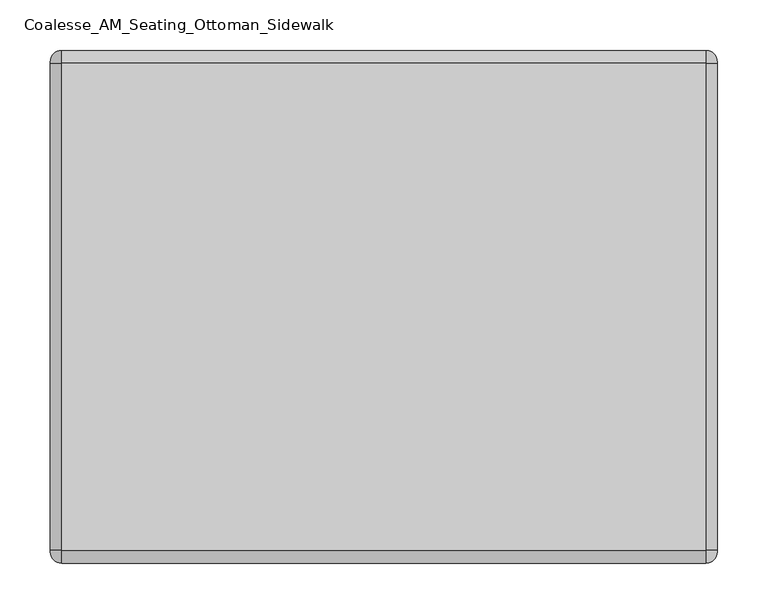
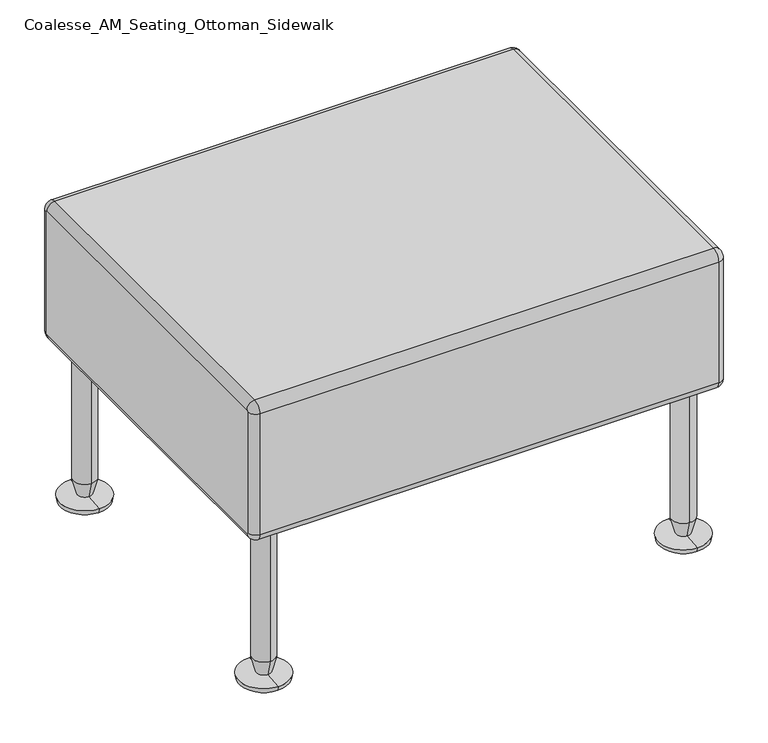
"""IFC4 building model written with IfcOpenShell, lengths in millimetres: furniture geometry, Coalesse_AM_Seating_Ottoman_Sidewalk : 20D x 26W."""

from ifc_helpers import new_model, si_unit, point, frame, origin, place, context, project, spatial, polyline, circle_curve, ellipse_curve, trimmed, source, transform, mapped, element, save
from ifc_brep_helpers import plane_surface, cylinder_surface, revolved_surface, advanced_brep


def coalesse_am_seating_ottoman_sidewalk_9dda5adf(model_context):
    return source(origin(), model_context, "Body", "AdvancedBrep", [
        advanced_brep(
        [(465.8089794, -146.3050929, 420.6875), (465.8089794, -144.7175929, 419.1), (465.8089794, -144.7175929, 241.3), (465.8089794, -146.3050929, 239.7125), (465.8089794, -628.9050929, 239.7125), (465.8089794, -630.4925929, 241.3), (465.8089794, -630.4925929, 419.1), (465.8089794, -628.9050929, 420.6875), (1126.2089794, -628.9050929, 420.6875), (1126.2089794, -630.4925929, 419.1), (1126.2089794, -630.4925929, 241.3), (1126.2089794, -628.9050929, 239.7125), (1126.2089794, -146.3050929, 239.7125), (1126.2089794, -144.7175929, 241.3), (1126.2089794, -144.7175929, 419.1), (1126.2089794, -146.3050929, 420.6875), (476.9214794, -146.3050929, 431.8), (476.9214794, -628.9050929, 431.8), (1115.0964794, -628.9050929, 431.8), (1115.0964794, -146.3050929, 431.8), (476.9214794, -133.6050929, 419.1), (1115.0964794, -133.6050929, 419.1), (476.9214794, -133.6050929, 241.3), (1115.0964794, -133.6050929, 241.3), (476.9214794, -146.3050929, 228.6), (1115.0964794, -146.3050929, 228.6), (476.9214794, -628.9050929, 228.6), (1115.0964794, -628.9050929, 228.6), (476.9214794, -641.6050929, 241.3), (1115.0964794, -641.6050929, 241.3), (476.9214794, -641.6050929, 419.1), (1115.0964794, -641.6050929, 419.1)],
        [
            (0, 1, circle_curve(frame((465.8089794, -146.3050929, 419.1), z_axis=(-1.0, 0.0, 0.0), x_axis=(0.0, 0.0, 1.0)), 1.5875)),
            (1, 2),
            (2, 3, circle_curve(frame((465.8089794, -146.3050929, 241.3), z_axis=(-1.0, 0.0, 0.0), x_axis=(0.0, 1.0, 0.0)), 1.5875)),
            (3, 4),
            (4, 5, circle_curve(frame((465.8089794, -628.9050929, 241.3), z_axis=(-1.0, 0.0, 0.0), x_axis=(0.0, 0.0, -1.0)), 1.5875)),
            (5, 6),
            (6, 7, circle_curve(frame((465.8089794, -628.9050929, 419.1), z_axis=(-1.0, 0.0, 0.0), x_axis=(0.0, -1.0, 0.0)), 1.5875)),
            (7, 0),
            (8, 9, circle_curve(frame((1126.2089794, -628.9050929, 419.1), z_axis=(1.0, 0.0, 0.0), x_axis=(0.0, 0.0, 1.0)), 1.5875)),
            (9, 10),
            (10, 11, circle_curve(frame((1126.2089794, -628.9050929, 241.3), z_axis=(1.0, 0.0, 0.0), x_axis=(0.0, -1.0, 0.0)), 1.5875)),
            (11, 12),
            (12, 13, circle_curve(frame((1126.2089794, -146.3050929, 241.3), z_axis=(1.0, 0.0, 0.0), x_axis=(0.0, 0.0, -1.0)), 1.5875)),
            (13, 14),
            (14, 15, circle_curve(frame((1126.2089794, -146.3050929, 419.1), z_axis=(1.0, 0.0, 0.0), x_axis=(0.0, 1.0, 0.0)), 1.5875)),
            (15, 8),
            (16, 17),
            (17, 18),
            (18, 19),
            (19, 16),
            (20, 16, circle_curve(frame((476.9214794, -146.3050929, 419.1), z_axis=(1.0, 0.0, 0.0), x_axis=(0.0, -1.0, 0.0)), 12.7)),
            (19, 21, circle_curve(frame((1115.0964794, -146.3050929, 419.1), z_axis=(-1.0, 0.0, 0.0), x_axis=(0.0, -1.0, 0.0)), 12.7)),
            (21, 20),
            (22, 20),
            (21, 23),
            (23, 22),
            (24, 22, circle_curve(frame((476.9214794, -146.3050929, 241.3), z_axis=(1.0, 0.0, 0.0), x_axis=(0.0, -1.0, 0.0)), 12.7)),
            (23, 25, circle_curve(frame((1115.0964794, -146.3050929, 241.3), z_axis=(-1.0, 0.0, 0.0), x_axis=(0.0, -1.0, 0.0)), 12.7)),
            (25, 24),
            (26, 24),
            (25, 27),
            (27, 26),
            (28, 26, circle_curve(frame((476.9214794, -628.9050929, 241.3), z_axis=(1.0, 0.0, 0.0), x_axis=(0.0, -1.0, 0.0)), 12.7)),
            (27, 29, circle_curve(frame((1115.0964794, -628.9050929, 241.3), z_axis=(-1.0, 0.0, 0.0), x_axis=(0.0, -1.0, 0.0)), 12.7)),
            (29, 28),
            (30, 28),
            (29, 31),
            (31, 30),
            (17, 30, circle_curve(frame((476.9214794, -628.9050929, 419.1), z_axis=(1.0, 0.0, 0.0), x_axis=(0.0, -1.0, 0.0)), 12.7)),
            (31, 18, circle_curve(frame((1115.0964794, -628.9050929, 419.1), z_axis=(-1.0, 0.0, 0.0), x_axis=(0.0, -1.0, 0.0)), 12.7)),
            (20, 1, circle_curve(frame((476.9214794, -144.7175929, 419.1), z_axis=(0.0, 0.0, 1.0), x_axis=(0.0, -1.0, 0.0)), 11.1125)),
            (0, 16, circle_curve(frame((476.9214794, -146.3050929, 420.6875), z_axis=(0.0, 1.0, 0.0), x_axis=(0.0, 0.0, -1.0)), 11.1125)),
            (22, 2, circle_curve(frame((476.9214794, -144.7175929, 241.3), z_axis=(0.0, 0.0, 1.0), x_axis=(0.0, -1.0, 0.0)), 11.1125)),
            (24, 3, circle_curve(frame((476.9214794, -146.3050929, 239.7125), z_axis=(0.0, 1.0, 0.0), x_axis=(0.0, 0.0, 1.0)), 11.1125)),
            (26, 4, circle_curve(frame((476.9214794, -628.9050929, 239.7125), z_axis=(0.0, 1.0, 0.0), x_axis=(0.0, 0.0, 1.0)), 11.1125)),
            (28, 5, circle_curve(frame((476.9214794, -630.4925929, 241.3), z_axis=(0.0, 0.0, -1.0), x_axis=(0.0, 1.0, 0.0)), 11.1125)),
            (30, 6, circle_curve(frame((476.9214794, -630.4925929, 419.1), z_axis=(0.0, 0.0, -1.0), x_axis=(0.0, 1.0, 0.0)), 11.1125)),
            (17, 7, circle_curve(frame((476.9214794, -628.9050929, 420.6875), z_axis=(0.0, -1.0, 0.0), x_axis=(0.0, 0.0, -1.0)), 11.1125)),
            (31, 9, circle_curve(frame((1115.0964794, -630.4925929, 419.1), z_axis=(0.0, 0.0, 1.0), x_axis=(0.0, -1.0, 0.0)), 11.1125)),
            (8, 18, circle_curve(frame((1115.0964794, -628.9050929, 420.6875), z_axis=(0.0, -1.0, 0.0), x_axis=(0.0, 0.0, 1.0)), 11.1125)),
            (29, 10, circle_curve(frame((1115.0964794, -630.4925929, 241.3), z_axis=(0.0, 0.0, 1.0), x_axis=(0.0, -1.0, 0.0)), 11.1125)),
            (27, 11, circle_curve(frame((1115.0964794, -628.9050929, 239.7125), z_axis=(0.0, -1.0, 0.0), x_axis=(0.0, 0.0, -1.0)), 11.1125)),
            (25, 12, circle_curve(frame((1115.0964794, -146.3050929, 239.7125), z_axis=(0.0, -1.0, 0.0), x_axis=(0.0, 0.0, -1.0)), 11.1125)),
            (23, 13, circle_curve(frame((1115.0964794, -144.7175929, 241.3), z_axis=(0.0, 0.0, -1.0), x_axis=(0.0, 1.0, 0.0)), 11.1125)),
            (21, 14, circle_curve(frame((1115.0964794, -144.7175929, 419.1), z_axis=(0.0, 0.0, -1.0), x_axis=(0.0, 1.0, 0.0)), 11.1125)),
            (19, 15, circle_curve(frame((1115.0964794, -146.3050929, 420.6875), z_axis=(0.0, 1.0, 0.0), x_axis=(0.0, 0.0, 1.0)), 11.1125)),
        ],
        [
            plane_surface(frame((465.8089794, -146.3050929, 431.8), z_axis=(-1.0, 0.0, 0.0), x_axis=(0.0, 1.0, 0.0))),
            plane_surface(frame((1126.2089794, -146.3050929, 431.8), z_axis=(1.0, 0.0, 0.0), x_axis=(0.0, -1.0, 0.0))),
            plane_surface(frame((465.8089794, -628.9050929, 431.8), z_axis=(0.0, 0.0, 1.0), x_axis=(1.0, 0.0, 0.0))),
            cylinder_surface(frame((1126.2089794, -146.3050929, 419.1), z_axis=(-1.0, 0.0, 0.0), x_axis=(0.0, -1.0, 0.0)), 12.7),
            plane_surface(frame((465.8089794, -133.6050929, 419.1), z_axis=(0.0, 1.0, 0.0), x_axis=(1.0, 0.0, 0.0))),
            cylinder_surface(frame((1126.2089794, -146.3050929, 241.3), z_axis=(-1.0, 0.0, 0.0), x_axis=(0.0, -1.0, 0.0)), 12.7),
            plane_surface(frame((465.8089794, -146.3050929, 228.6), z_axis=(0.0, 0.0, -1.0), x_axis=(1.0, 0.0, 0.0))),
            cylinder_surface(frame((1126.2089794, -628.9050929, 241.3), z_axis=(-1.0, 0.0, 0.0), x_axis=(0.0, -1.0, 0.0)), 12.7),
            plane_surface(frame((465.8089794, -641.6050929, 241.3), z_axis=(0.0, -1.0, 0.0), x_axis=(1.0, 0.0, 0.0))),
            cylinder_surface(frame((1126.2089794, -628.9050929, 419.1), z_axis=(-1.0, 0.0, 0.0), x_axis=(0.0, -1.0, 0.0)), 12.7),
            revolved_surface(trimmed(ellipse_curve(frame((476.9214794, -146.3050929, 420.6875), z_axis=(0.0, -1.0, 0.0), x_axis=(0.0, 0.0, -1.0)), 11.1125, 11.1125), [point((476.9214794, -146.3050929, 431.8))], [point((465.8089794, -146.3050929, 420.6875))], True, "CARTESIAN"), (465.8089794, -146.3050929, 419.1), (-1.0, 0.0, 0.0)),
            cylinder_surface(frame((476.9214794, -144.7175929, 419.1), z_axis=(0.0, 0.0, -1.0), x_axis=(0.0, -1.0, 0.0)), 11.1125),
            revolved_surface(trimmed(ellipse_curve(frame((476.9214794, -144.7175929, 241.3), z_axis=(0.0, 0.0, 1.0), x_axis=(0.0, -1.0, 0.0)), 11.1125, 11.1125), [point((476.9214794, -133.6050929, 241.3))], [point((465.8089794, -144.7175929, 241.3))], True, "CARTESIAN"), (465.8089794, -146.3050929, 241.3), (-1.0, 0.0, 0.0)),
            cylinder_surface(frame((476.9214794, -146.3050929, 239.7125), z_axis=(0.0, -1.0, 0.0), x_axis=(0.0, 0.0, 1.0)), 11.1125),
            revolved_surface(trimmed(ellipse_curve(frame((476.9214794, -628.9050929, 239.7125), z_axis=(0.0, 1.0, 0.0), x_axis=(0.0, 0.0, 1.0)), 11.1125, 11.1125), [point((476.9214794, -628.9050929, 228.6))], [point((465.8089794, -628.9050929, 239.7125))], True, "CARTESIAN"), (465.8089794, -628.9050929, 241.3), (-1.0, 0.0, 0.0)),
            cylinder_surface(frame((476.9214794, -630.4925929, 241.3), z_axis=(0.0, 0.0, 1.0), x_axis=(0.0, 1.0, 0.0)), 11.1125),
            revolved_surface(trimmed(ellipse_curve(frame((476.9214794, -630.4925929, 419.1), z_axis=(0.0, 0.0, -1.0), x_axis=(0.0, 1.0, 0.0)), 11.1125, 11.1125), [point((476.9214794, -641.6050929, 419.1))], [point((465.8089794, -630.4925929, 419.1))], True, "CARTESIAN"), (465.8089794, -628.9050929, 419.1), (-1.0, 0.0, 0.0)),
            cylinder_surface(frame((476.9214794, -628.9050929, 420.6875), z_axis=(0.0, 1.0, 0.0), x_axis=(0.0, 0.0, -1.0)), 11.1125),
            revolved_surface(trimmed(ellipse_curve(frame((1115.0964794, -628.9050929, 420.6875), z_axis=(0.0, 1.0, 0.0), x_axis=(0.0, 0.0, 1.0)), 11.1125, 11.1125), [point((1115.0964794, -628.9050929, 431.8))], [point((1126.2089794, -628.9050929, 420.6875))], True, "CARTESIAN"), (1126.2089794, -628.9050929, 419.1), (1.0, 0.0, 0.0)),
            cylinder_surface(frame((1115.0964794, -630.4925929, 419.1), z_axis=(0.0, 0.0, -1.0), x_axis=(0.0, -1.0, 0.0)), 11.1125),
            revolved_surface(trimmed(ellipse_curve(frame((1115.0964794, -630.4925929, 241.3), z_axis=(0.0, 0.0, 1.0), x_axis=(0.0, -1.0, 0.0)), 11.1125, 11.1125), [point((1115.0964794, -641.6050929, 241.3))], [point((1126.2089794, -630.4925929, 241.3))], True, "CARTESIAN"), (1126.2089794, -628.9050929, 241.3), (1.0, 0.0, 0.0)),
            cylinder_surface(frame((1115.0964794, -628.9050929, 239.7125), z_axis=(0.0, 1.0, 0.0), x_axis=(0.0, 0.0, -1.0)), 11.1125),
            revolved_surface(trimmed(ellipse_curve(frame((1115.0964794, -146.3050929, 239.7125), z_axis=(0.0, -1.0, 0.0), x_axis=(0.0, 0.0, -1.0)), 11.1125, 11.1125), [point((1115.0964794, -146.3050929, 228.6))], [point((1126.2089794, -146.3050929, 239.7125))], True, "CARTESIAN"), (1126.2089794, -146.3050929, 241.3), (1.0, 0.0, 0.0)),
            cylinder_surface(frame((1115.0964794, -144.7175929, 241.3), z_axis=(0.0, 0.0, 1.0), x_axis=(0.0, 1.0, 0.0)), 11.1125),
            revolved_surface(trimmed(ellipse_curve(frame((1115.0964794, -144.7175929, 419.1), z_axis=(0.0, 0.0, -1.0), x_axis=(0.0, 1.0, 0.0)), 11.1125, 11.1125), [point((1115.0964794, -133.6050929, 419.1))], [point((1126.2089794, -144.7175929, 419.1))], True, "CARTESIAN"), (1126.2089794, -146.3050929, 419.1), (1.0, 0.0, 0.0)),
            cylinder_surface(frame((1115.0964794, -146.3050929, 420.6875), z_axis=(0.0, -1.0, 0.0), x_axis=(0.0, 0.0, 1.0)), 11.1125),
        ],
        [
            (0, [[1, 2, 3, 4, 5, 6, 7, 8]]),
            (1, [[9, 10, 11, 12, 13, 14, 15, 16]]),
            (2, [[17, 18, 19, 20]]),
            (3, [[21, -20, 22, 23]]),
            (4, [[24, -23, 25, 26]]),
            (5, [[27, -26, 28, 29]]),
            (6, [[30, -29, 31, 32]]),
            (7, [[33, -32, 34, 35]]),
            (8, [[36, -35, 37, 38]]),
            (9, [[39, -38, 40, -18]]),
            (10, [[41, -1, 42, -21]]),
            (11, [[-41, -24, 43, -2]]),
            (12, [[-43, -27, 44, -3]]),
            (13, [[-44, -30, 45, -4]]),
            (14, [[-45, -33, 46, -5]]),
            (15, [[-46, -36, 47, -6]]),
            (16, [[-47, -39, 48, -7]]),
            (17, [[-42, -8, -48, -17]]),
            (18, [[49, -9, 50, -40]]),
            (19, [[-49, -37, 51, -10]]),
            (20, [[-51, -34, 52, -11]]),
            (21, [[-52, -31, 53, -12]]),
            (22, [[-53, -28, 54, -13]]),
            (23, [[-54, -25, 55, -14]]),
            (24, [[-55, -22, 56, -15]]),
            (25, [[-50, -16, -56, -19]]),
        ],
    ),
        advanced_brep(
        [(1088.1089794, -187.5800929, 31.75), (1088.1089794, -155.8300929, 31.75), (1088.1089794, -155.8300929, 228.6), (1088.1089794, -187.5800929, 228.6), (1088.1089794, -181.5884463, 8.5001207), (1088.1089794, -161.8217394, 8.5001207), (1088.1089794, -206.6300929, 6.35), (1088.1089794, -136.7800929, 6.35), (1088.1089794, -205.5717596, 0.0), (1088.1089794, -137.8384262, 0.0), (1088.1089794, -171.7050929, 0.0), (1088.1089794, -171.7050929, 228.6)],
        [
            (0, 1, circle_curve(frame((1088.1089794, -171.7050929, 31.75), z_axis=(0.0, 0.0, 1.0), x_axis=(0.0, 1.0, 0.0)), 15.875)),
            (1, 2),
            (2, 3, circle_curve(frame((1088.1089794, -171.7050929, 228.6), z_axis=(0.0, 0.0, -1.0), x_axis=(0.0, 1.0, 0.0)), 15.875)),
            (3, 0),
            (1, 0, circle_curve(frame((1088.1089794, -171.7050929, 31.75), z_axis=(0.0, 0.0, 1.0), x_axis=(0.0, 1.0, 0.0)), 15.875)),
            (3, 2, circle_curve(frame((1088.1089794, -171.7050929, 228.6), z_axis=(0.0, 0.0, -1.0), x_axis=(0.0, 1.0, 0.0)), 15.875)),
            (4, 5, circle_curve(frame((1088.1089794, -171.7050929, 8.5001207), z_axis=(0.0, 0.0, 1.0), x_axis=(0.0, 1.0, 0.0)), 9.8833534)),
            (5, 1),
            (0, 4),
            (5, 4, circle_curve(frame((1088.1089794, -171.7050929, 8.5001207), z_axis=(0.0, 0.0, 1.0), x_axis=(0.0, 1.0, 0.0)), 9.8833534)),
            (6, 7, circle_curve(frame((1088.1089794, -171.7050929, 6.35), z_axis=(0.0, 0.0, 1.0), x_axis=(0.0, 1.0, 0.0)), 34.925)),
            (7, 5),
            (4, 6),
            (7, 6, circle_curve(frame((1088.1089794, -171.7050929, 6.35), z_axis=(0.0, 0.0, 1.0), x_axis=(0.0, 1.0, 0.0)), 34.925)),
            (8, 9, circle_curve(frame((1088.1089794, -171.7050929, 0.0), z_axis=(0.0, 0.0, 1.0), x_axis=(0.0, 1.0, 0.0)), 33.8666667)),
            (9, 7),
            (6, 8),
            (9, 8, circle_curve(frame((1088.1089794, -171.7050929, 0.0), z_axis=(0.0, 0.0, 1.0), x_axis=(0.0, 1.0, 0.0)), 33.8666667)),
            (10, 9),
            (8, 10),
            (2, 11),
            (11, 3),
        ],
        [
            cylinder_surface(frame((1088.1089794, -171.7050929, -95.25), z_axis=(0.0, 0.0, -1.0), x_axis=(0.0, 1.0, 0.0)), 15.875),
            revolved_surface(polyline([(1088.1089794, -155.8300929, 31.75), (1088.1089794, -161.8217394, 8.5001207)]), (1088.1089794, -171.7050929, -95.25), (0.0, 0.0, -1.0)),
            revolved_surface(polyline([(1088.1089794, -161.8217394, 8.5001207), (1088.1089794, -136.7800929, 6.35)]), (1088.1089794, -171.7050929, -95.25), (0.0, 0.0, -1.0)),
            revolved_surface(polyline([(1088.1089794, -136.7800929, 6.35), (1088.1089794, -137.8384262, 0.0)]), (1088.1089794, -171.7050929, -95.25), (0.0, 0.0, -1.0)),
            plane_surface(frame((1088.1089794, -171.7050929, 0.0), z_axis=(0.0, 0.0, -1.0), x_axis=(0.0, 1.0, 0.0))),
            plane_surface(frame((1088.1089794, -171.7050929, 228.6), z_axis=(0.0, 0.0, 1.0), x_axis=(0.0, 1.0, 0.0))),
        ],
        [
            (0, [[1, 2, 3, 4]]),
            (0, [[5, -4, 6, -2]]),
            (1, [[7, 8, -1, 9]]),
            (1, [[10, -9, -5, -8]]),
            (2, [[11, 12, -7, 13]]),
            (2, [[14, -13, -10, -12]]),
            (3, [[15, 16, -11, 17]]),
            (3, [[18, -17, -14, -16]]),
            (4, [[19, -15, 20]]),
            (4, [[-20, -18, -19]]),
            (5, [[-3, 21, 22]]),
            (5, [[-6, -22, -21]]),
        ],
    ),
        advanced_brep(
        [(503.9089794, -171.7050929, 228.6), (503.9089794, -155.8300929, 228.6), (503.9089794, -187.5800929, 228.6), (503.9089794, -205.5717596, 0.0), (503.9089794, -137.8384262, 0.0), (503.9089794, -171.7050929, 0.0), (503.9089794, -206.6300929, 6.35), (503.9089794, -136.7800929, 6.35), (503.9089794, -181.5884463, 8.5001207), (503.9089794, -161.8217394, 8.5001207), (503.9089794, -187.5800929, 31.75), (503.9089794, -155.8300929, 31.75)],
        [
            (0, 1),
            (1, 2, circle_curve(frame((503.9089794, -171.7050929, 228.6), z_axis=(0.0, 0.0, 1.0), x_axis=(0.0, 1.0, 0.0)), 15.875)),
            (2, 0),
            (2, 1, circle_curve(frame((503.9089794, -171.7050929, 228.6), z_axis=(0.0, 0.0, 1.0), x_axis=(0.0, 1.0, 0.0)), 15.875)),
            (3, 4, circle_curve(frame((503.9089794, -171.7050929, 0.0), z_axis=(0.0, 0.0, -1.0), x_axis=(0.0, 1.0, 0.0)), 33.8666667)),
            (4, 5),
            (5, 3),
            (4, 3, circle_curve(frame((503.9089794, -171.7050929, 0.0), z_axis=(0.0, 0.0, -1.0), x_axis=(0.0, 1.0, 0.0)), 33.8666667)),
            (6, 7, circle_curve(frame((503.9089794, -171.7050929, 6.35), z_axis=(0.0, 0.0, -1.0), x_axis=(0.0, 1.0, 0.0)), 34.925)),
            (7, 4),
            (3, 6),
            (7, 6, circle_curve(frame((503.9089794, -171.7050929, 6.35), z_axis=(0.0, 0.0, -1.0), x_axis=(0.0, 1.0, 0.0)), 34.925)),
            (8, 9, circle_curve(frame((503.9089794, -171.7050929, 8.5001207), z_axis=(0.0, 0.0, -1.0), x_axis=(0.0, 1.0, 0.0)), 9.8833534)),
            (9, 7),
            (6, 8),
            (9, 8, circle_curve(frame((503.9089794, -171.7050929, 8.5001207), z_axis=(0.0, 0.0, -1.0), x_axis=(0.0, 1.0, 0.0)), 9.8833534)),
            (10, 11, circle_curve(frame((503.9089794, -171.7050929, 31.75), z_axis=(0.0, 0.0, -1.0), x_axis=(0.0, 1.0, 0.0)), 15.875)),
            (11, 9),
            (8, 10),
            (11, 10, circle_curve(frame((503.9089794, -171.7050929, 31.75), z_axis=(0.0, 0.0, -1.0), x_axis=(0.0, 1.0, 0.0)), 15.875)),
            (1, 11),
            (10, 2),
        ],
        [
            plane_surface(frame((503.9089794, -171.7050929, 228.6), z_axis=(0.0, 0.0, 1.0), x_axis=(0.0, 1.0, 0.0))),
            plane_surface(frame((503.9089794, -171.7050929, 0.0), z_axis=(0.0, 0.0, -1.0), x_axis=(0.0, 1.0, 0.0))),
            revolved_surface(polyline([(503.9089794, -137.8384262, 0.0), (503.9089794, -136.7800929, 6.35)]), (503.9089794, -171.7050929, -95.25), (0.0, 0.0, 1.0)),
            revolved_surface(polyline([(503.9089794, -136.7800929, 6.35), (503.9089794, -161.8217394, 8.5001207)]), (503.9089794, -171.7050929, -95.25), (0.0, 0.0, 1.0)),
            revolved_surface(polyline([(503.9089794, -161.8217394, 8.5001207), (503.9089794, -155.8300929, 31.75)]), (503.9089794, -171.7050929, -95.25), (0.0, 0.0, 1.0)),
            cylinder_surface(frame((503.9089794, -171.7050929, -95.25), z_axis=(0.0, 0.0, 1.0), x_axis=(0.0, 1.0, 0.0)), 15.875),
        ],
        [
            (0, [[1, 2, 3]]),
            (0, [[-3, 4, -1]]),
            (1, [[5, 6, 7]]),
            (1, [[8, -7, -6]]),
            (2, [[9, 10, -5, 11]]),
            (2, [[12, -11, -8, -10]]),
            (3, [[13, 14, -9, 15]]),
            (3, [[16, -15, -12, -14]]),
            (4, [[17, 18, -13, 19]]),
            (4, [[20, -19, -16, -18]]),
            (5, [[-2, 21, -17, 22]]),
            (5, [[-4, -22, -20, -21]]),
        ],
    ),
        advanced_brep(
        [(1088.1089794, -619.3800929, 31.75), (1088.1089794, -587.6300929, 31.75), (1088.1089794, -587.6300929, 228.6), (1088.1089794, -619.3800929, 228.6), (1088.1089794, -613.3884463, 8.5001207), (1088.1089794, -593.6217394, 8.5001207), (1088.1089794, -638.4300929, 6.35), (1088.1089794, -568.5800929, 6.35), (1088.1089794, -637.3717596, 0.0), (1088.1089794, -569.6384262, 0.0), (1088.1089794, -603.5050929, 0.0), (1088.1089794, -603.5050929, 228.6)],
        [
            (0, 1, circle_curve(frame((1088.1089794, -603.5050929, 31.75), z_axis=(0.0, 0.0, 1.0), x_axis=(0.0, 1.0, 0.0)), 15.875)),
            (1, 2),
            (2, 3, circle_curve(frame((1088.1089794, -603.5050929, 228.6), z_axis=(0.0, 0.0, -1.0), x_axis=(0.0, 1.0, 0.0)), 15.875)),
            (3, 0),
            (1, 0, circle_curve(frame((1088.1089794, -603.5050929, 31.75), z_axis=(0.0, 0.0, 1.0), x_axis=(0.0, 1.0, 0.0)), 15.875)),
            (3, 2, circle_curve(frame((1088.1089794, -603.5050929, 228.6), z_axis=(0.0, 0.0, -1.0), x_axis=(0.0, 1.0, 0.0)), 15.875)),
            (4, 5, circle_curve(frame((1088.1089794, -603.5050929, 8.5001207), z_axis=(0.0, 0.0, 1.0), x_axis=(0.0, 1.0, 0.0)), 9.8833534)),
            (5, 1),
            (0, 4),
            (5, 4, circle_curve(frame((1088.1089794, -603.5050929, 8.5001207), z_axis=(0.0, 0.0, 1.0), x_axis=(0.0, 1.0, 0.0)), 9.8833534)),
            (6, 7, circle_curve(frame((1088.1089794, -603.5050929, 6.35), z_axis=(0.0, 0.0, 1.0), x_axis=(0.0, 1.0, 0.0)), 34.925)),
            (7, 5),
            (4, 6),
            (7, 6, circle_curve(frame((1088.1089794, -603.5050929, 6.35), z_axis=(0.0, 0.0, 1.0), x_axis=(0.0, 1.0, 0.0)), 34.925)),
            (8, 9, circle_curve(frame((1088.1089794, -603.5050929, 0.0), z_axis=(0.0, 0.0, 1.0), x_axis=(0.0, 1.0, 0.0)), 33.8666667)),
            (9, 7),
            (6, 8),
            (9, 8, circle_curve(frame((1088.1089794, -603.5050929, 0.0), z_axis=(0.0, 0.0, 1.0), x_axis=(0.0, 1.0, 0.0)), 33.8666667)),
            (10, 9),
            (8, 10),
            (2, 11),
            (11, 3),
        ],
        [
            cylinder_surface(frame((1088.1089794, -603.5050929, -95.25), z_axis=(0.0, 0.0, -1.0), x_axis=(0.0, 1.0, 0.0)), 15.875),
            revolved_surface(polyline([(1088.1089794, -587.6300929, 31.75), (1088.1089794, -593.6217394, 8.5001207)]), (1088.1089794, -603.5050929, -95.25), (0.0, 0.0, -1.0)),
            revolved_surface(polyline([(1088.1089794, -593.6217394, 8.5001207), (1088.1089794, -568.5800929, 6.35)]), (1088.1089794, -603.5050929, -95.25), (0.0, 0.0, -1.0)),
            revolved_surface(polyline([(1088.1089794, -568.5800929, 6.35), (1088.1089794, -569.6384262, 0.0)]), (1088.1089794, -603.5050929, -95.25), (0.0, 0.0, -1.0)),
            plane_surface(frame((1088.1089794, -603.5050929, 0.0), z_axis=(0.0, 0.0, -1.0), x_axis=(0.0, 1.0, 0.0))),
            plane_surface(frame((1088.1089794, -603.5050929, 228.6), z_axis=(0.0, 0.0, 1.0), x_axis=(0.0, 1.0, 0.0))),
        ],
        [
            (0, [[1, 2, 3, 4]]),
            (0, [[5, -4, 6, -2]]),
            (1, [[7, 8, -1, 9]]),
            (1, [[10, -9, -5, -8]]),
            (2, [[11, 12, -7, 13]]),
            (2, [[14, -13, -10, -12]]),
            (3, [[15, 16, -11, 17]]),
            (3, [[18, -17, -14, -16]]),
            (4, [[19, -15, 20]]),
            (4, [[-20, -18, -19]]),
            (5, [[-3, 21, 22]]),
            (5, [[-6, -22, -21]]),
        ],
    ),
        advanced_brep(
        [(503.9089794, -603.5050929, 228.6), (503.9089794, -587.6300929, 228.6), (503.9089794, -619.3800929, 228.6), (503.9089794, -637.3717596, 0.0), (503.9089794, -569.6384262, 0.0), (503.9089794, -603.5050929, 0.0), (503.9089794, -638.4300929, 6.35), (503.9089794, -568.5800929, 6.35), (503.9089794, -613.3884463, 8.5001207), (503.9089794, -593.6217394, 8.5001207), (503.9089794, -619.3800929, 31.75), (503.9089794, -587.6300929, 31.75)],
        [
            (0, 1),
            (1, 2, circle_curve(frame((503.9089794, -603.5050929, 228.6), z_axis=(0.0, 0.0, 1.0), x_axis=(0.0, 1.0, 0.0)), 15.875)),
            (2, 0),
            (2, 1, circle_curve(frame((503.9089794, -603.5050929, 228.6), z_axis=(0.0, 0.0, 1.0), x_axis=(0.0, 1.0, 0.0)), 15.875)),
            (3, 4, circle_curve(frame((503.9089794, -603.5050929, 0.0), z_axis=(0.0, 0.0, -1.0), x_axis=(0.0, 1.0, 0.0)), 33.8666667)),
            (4, 5),
            (5, 3),
            (4, 3, circle_curve(frame((503.9089794, -603.5050929, 0.0), z_axis=(0.0, 0.0, -1.0), x_axis=(0.0, 1.0, 0.0)), 33.8666667)),
            (6, 7, circle_curve(frame((503.9089794, -603.5050929, 6.35), z_axis=(0.0, 0.0, -1.0), x_axis=(0.0, 1.0, 0.0)), 34.925)),
            (7, 4),
            (3, 6),
            (7, 6, circle_curve(frame((503.9089794, -603.5050929, 6.35), z_axis=(0.0, 0.0, -1.0), x_axis=(0.0, 1.0, 0.0)), 34.925)),
            (8, 9, circle_curve(frame((503.9089794, -603.5050929, 8.5001207), z_axis=(0.0, 0.0, -1.0), x_axis=(0.0, 1.0, 0.0)), 9.8833534)),
            (9, 7),
            (6, 8),
            (9, 8, circle_curve(frame((503.9089794, -603.5050929, 8.5001207), z_axis=(0.0, 0.0, -1.0), x_axis=(0.0, 1.0, 0.0)), 9.8833534)),
            (10, 11, circle_curve(frame((503.9089794, -603.5050929, 31.75), z_axis=(0.0, 0.0, -1.0), x_axis=(0.0, 1.0, 0.0)), 15.875)),
            (11, 9),
            (8, 10),
            (11, 10, circle_curve(frame((503.9089794, -603.5050929, 31.75), z_axis=(0.0, 0.0, -1.0), x_axis=(0.0, 1.0, 0.0)), 15.875)),
            (1, 11),
            (10, 2),
        ],
        [
            plane_surface(frame((503.9089794, -603.5050929, 228.6), z_axis=(0.0, 0.0, 1.0), x_axis=(0.0, 1.0, 0.0))),
            plane_surface(frame((503.9089794, -603.5050929, 0.0), z_axis=(0.0, 0.0, -1.0), x_axis=(0.0, 1.0, 0.0))),
            revolved_surface(polyline([(503.9089794, -569.6384262, 0.0), (503.9089794, -568.5800929, 6.35)]), (503.9089794, -603.5050929, -95.25), (0.0, 0.0, 1.0)),
            revolved_surface(polyline([(503.9089794, -568.5800929, 6.35), (503.9089794, -593.6217394, 8.5001207)]), (503.9089794, -603.5050929, -95.25), (0.0, 0.0, 1.0)),
            revolved_surface(polyline([(503.9089794, -593.6217394, 8.5001207), (503.9089794, -587.6300929, 31.75)]), (503.9089794, -603.5050929, -95.25), (0.0, 0.0, 1.0)),
            cylinder_surface(frame((503.9089794, -603.5050929, -95.25), z_axis=(0.0, 0.0, 1.0), x_axis=(0.0, 1.0, 0.0)), 15.875),
        ],
        [
            (0, [[1, 2, 3]]),
            (0, [[-3, 4, -1]]),
            (1, [[5, 6, 7]]),
            (1, [[8, -7, -6]]),
            (2, [[9, 10, -5, 11]]),
            (2, [[12, -11, -8, -10]]),
            (3, [[13, 14, -9, 15]]),
            (3, [[16, -15, -12, -14]]),
            (4, [[17, 18, -13, 19]]),
            (4, [[20, -19, -16, -18]]),
            (5, [[-2, 21, -17, 22]]),
            (5, [[-4, -22, -20, -21]]),
        ],
    ),
    ])


if __name__ == "__main__":
    model = new_model("IFC4")
    model_context = context("Model", 3, world=origin())
    ifc_project = project(units=[si_unit("LENGTHUNIT", "METRE", prefix="MILLI")], contexts=[model_context])
    site = spatial("IfcSite", under=ifc_project)
    building = spatial("IfcBuilding", under=site)
    placement = place(None, origin())
    coalesse_am_seating_ottoman_sidewalk_shape = coalesse_am_seating_ottoman_sidewalk_9dda5adf(model_context)
    element("IfcFurniture", 1, ObjectType="Coalesse_AM_Seating_Ottoman_Sidewalk : 20D x 26W", at=placement, inside=building, context=model_context, shape_type="MappedRepresentation", body=[
        mapped(coalesse_am_seating_ottoman_sidewalk_shape, transform((0.0, 0.0, 0.0), x_axis=(1.0, 0.0, 0.0), y_axis=(0.0, 1.0, 0.0), z_axis=(0.0, 0.0, 1.0))),
    ])
    save(model, "model.ifc")
